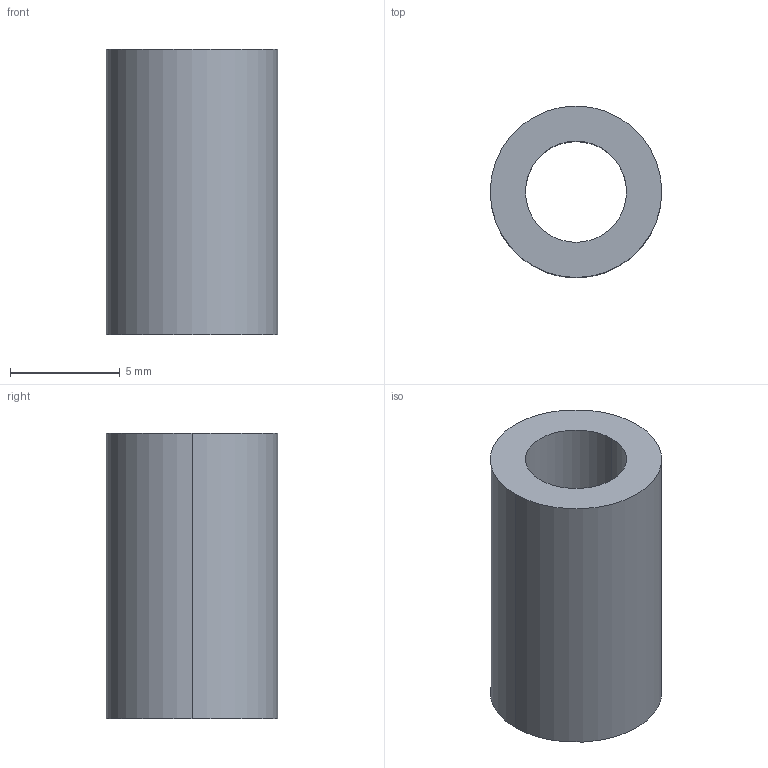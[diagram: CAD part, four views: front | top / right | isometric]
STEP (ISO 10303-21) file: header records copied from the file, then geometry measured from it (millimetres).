
FILE_DESCRIPTION (( 'STEP AP203' ), '1' );
FILE_NAME ('DBP_UPPER_ROLLER_GUIDE_hubV2_r1.STEP', '2018-11-08T15:04:59', ( '' ), ( '' ), 'SwSTEP 2.0', 'SolidWorks 2015', '' );
FILE_SCHEMA (( 'CONFIG_CONTROL_DESIGN' ));
Length unit declared in the file: inch
Products named in the file (1): DBP_UPPER_ROLLER_GUIDE_hubV2_r1
Bounding box: 7.8 x 7.8 x 13 mm (x, y, z)
Volume: 405.1 mm3; surface area: 568.8 mm2
Topology: 1 solids, 1 shells, 6 faces, 12 edges, 8 vertices
Faces by surface type: cylinder 4, plane 2
Entity records: 247 total; most frequent: DIRECTION 34, CARTESIAN_POINT 27, ORIENTED_EDGE 24, AXIS2_PLACEMENT_3D 15, EDGE_CURVE 12, VERTEX_POINT 8, PERSON_AND_ORGANIZATION 8, EDGE_LOOP 8
